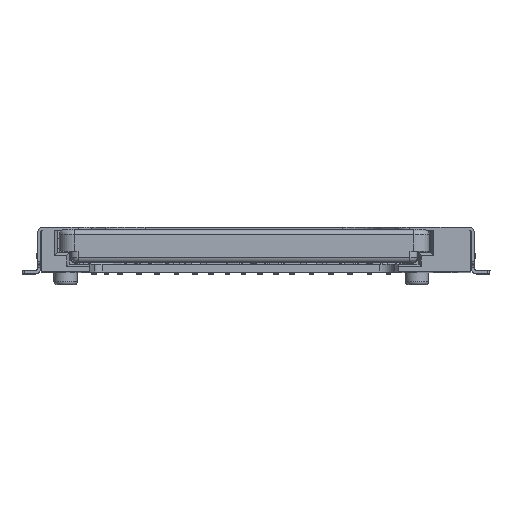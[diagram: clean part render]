
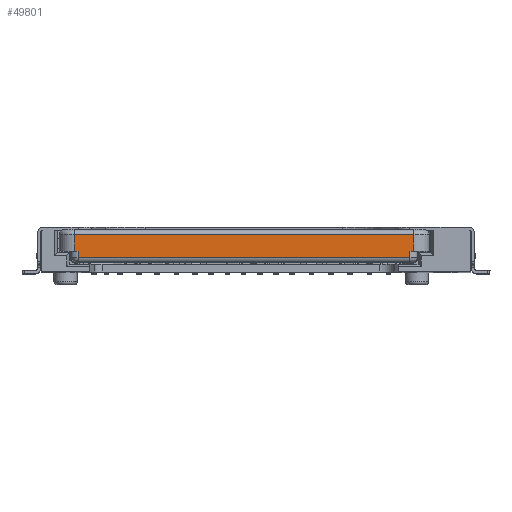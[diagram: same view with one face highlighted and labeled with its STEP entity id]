
A CAD part, top view. The second image highlights one B-rep face of the part: STEP entity #49801.
In plain terms, the highlighted planar face has unit normal (0, 0, 1).
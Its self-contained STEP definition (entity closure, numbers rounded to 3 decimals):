
#969=DIRECTION('',(1.,0.,0.));
#970=VECTOR('',#969,21.5);
#971=CARTESIAN_POINT('',(3.715,1.75,5.8));
#972=LINE('',#971,#970);
#1138=DIRECTION('',(0.,1.,0.));
#1139=VECTOR('',#1138,1.1);
#1140=CARTESIAN_POINT('',(25.465,2.15,5.8));
#1141=LINE('',#1140,#1139);
#1142=DIRECTION('',(-1.,0.,0.));
#1143=VECTOR('',#1142,0.25);
#1144=CARTESIAN_POINT('',(3.715,2.15,5.8));
#1145=LINE('',#1144,#1143);
#1146=DIRECTION('',(-1.,0.,0.));
#1147=VECTOR('',#1146,0.25);
#1148=CARTESIAN_POINT('',(25.465,2.15,5.8));
#1149=LINE('',#1148,#1147);
#1154=DIRECTION('',(0.,-1.,0.));
#1155=VECTOR('',#1154,0.4);
#1156=CARTESIAN_POINT('',(3.715,2.15,5.8));
#1157=LINE('',#1156,#1155);
#1342=DIRECTION('',(-1.,0.,0.));
#1343=VECTOR('',#1342,22.);
#1344=CARTESIAN_POINT('',(25.465,3.25,5.8));
#1345=LINE('',#1344,#1343);
#1365=DIRECTION('',(0.,-1.,0.));
#1366=VECTOR('',#1365,1.1);
#1367=CARTESIAN_POINT('',(3.465,3.25,5.8));
#1368=LINE('',#1367,#1366);
#1373=DIRECTION('',(0.,1.,0.));
#1374=VECTOR('',#1373,0.4);
#1375=CARTESIAN_POINT('',(25.215,1.75,5.8));
#1376=LINE('',#1375,#1374);
#37086=CARTESIAN_POINT('',(25.215,1.75,5.8));
#37087=VERTEX_POINT('',#37086);
#37088=CARTESIAN_POINT('',(3.715,1.75,5.8));
#37089=VERTEX_POINT('',#37088);
#37172=CARTESIAN_POINT('',(25.465,2.15,5.8));
#37173=VERTEX_POINT('',#37172);
#37176=CARTESIAN_POINT('',(25.215,2.15,5.8));
#37177=VERTEX_POINT('',#37176);
#37178=CARTESIAN_POINT('',(25.465,3.25,5.8));
#37179=VERTEX_POINT('',#37178);
#37180=CARTESIAN_POINT('',(3.715,2.15,5.8));
#37181=VERTEX_POINT('',#37180);
#37182=CARTESIAN_POINT('',(3.465,2.15,5.8));
#37183=VERTEX_POINT('',#37182);
#37184=CARTESIAN_POINT('',(3.465,3.25,5.8));
#37185=VERTEX_POINT('',#37184);
#49781=CARTESIAN_POINT('',(14.465,2.5,5.8));
#49782=DIRECTION('',(0.,0.,1.));
#49783=DIRECTION('',(1.,0.,0.));
#49784=AXIS2_PLACEMENT_3D('',#49781,#49782,#49783);
#49785=PLANE('',#49784);
#49787=ORIENTED_EDGE('',*,*,#49786,.F.);
#49789=ORIENTED_EDGE('',*,*,#49788,.T.);
#49791=ORIENTED_EDGE('',*,*,#49790,.F.);
#49793=ORIENTED_EDGE('',*,*,#49792,.F.);
#49794=ORIENTED_EDGE('',*,*,#49774,.F.);
#49795=ORIENTED_EDGE('',*,*,#49762,.T.);
#49797=ORIENTED_EDGE('',*,*,#49796,.F.);
#49798=ORIENTED_EDGE('',*,*,#49501,.F.);
#49799=EDGE_LOOP('',(#49787,#49789,#49791,#49793,#49794,#49795,#49797,#49798));
#49800=FACE_OUTER_BOUND('',#49799,.F.);
#49801=ADVANCED_FACE('',(#49800),#49785,.T.);
#49501=EDGE_CURVE('',#37089,#37087,#972,.T.);
#49762=EDGE_CURVE('',#37173,#37177,#1149,.T.);
#49774=EDGE_CURVE('',#37173,#37179,#1141,.T.);
#49786=EDGE_CURVE('',#37181,#37089,#1157,.T.);
#49788=EDGE_CURVE('',#37181,#37183,#1145,.T.);
#49790=EDGE_CURVE('',#37185,#37183,#1368,.T.);
#49792=EDGE_CURVE('',#37179,#37185,#1345,.T.);
#49796=EDGE_CURVE('',#37087,#37177,#1376,.T.);
